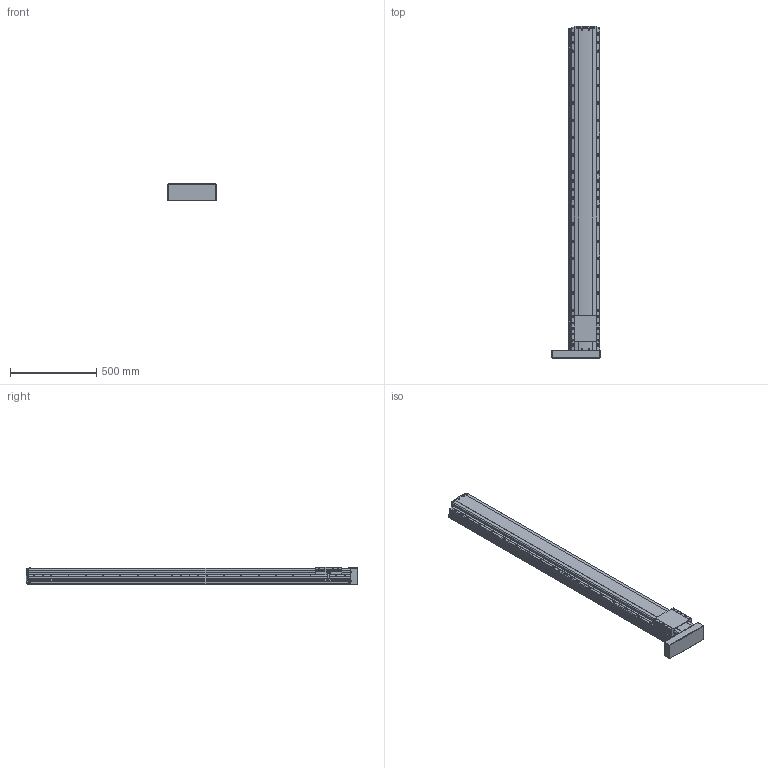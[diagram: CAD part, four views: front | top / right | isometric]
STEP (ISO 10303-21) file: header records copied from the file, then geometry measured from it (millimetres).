
FILE_DESCRIPTION(('STEP AP214'),'1');
FILE_NAME('Z:/Web/3D/PSA165/STP/PSA165-1600 (3D)/PSA165ㅁㅁ-1600PL+3SL.stp','2014-06-24T11:08:19',(' '),(' '),'Spatial InterOp 3D',' ',' ');
FILE_SCHEMA(('automotive_design'));
Length unit declared in the file: millimetre
Products named in the file (41): 스크루 : Round - M4.0 x 12.0; RRCV-PA160; BASE; 스크루 : Round - M4.0 x 10.0; RN15; Screw 20; SLIDE; FRCV; MTPL; 스크루 : Round - M3.0 x 6.0; M3.0 x 6.0; SRL-16x17-360L; SGD-SAN150; EE-SX674; SBK-SX674-352; BHCS M4.0 x 10.0
Bounding box: 281.93 x 1920.8 x 104 mm (x, y, z)
Volume: 26975754.6 mm3; surface area: 1784969 mm2
Topology: 41 solids, 41 shells, 2756 faces, 7413 edges, 4741 vertices
Faces by surface type: plane 1491, cylinder 903, cone 257, sphere 64, bspline 25, torus 16
Entity records: 112153 total; most frequent: CARTESIAN_POINT 19673, DIRECTION 14751, ORIENTED_EDGE 14454, EDGE_CURVE 7227, AXIS2_PLACEMENT_3D 5033, VERTEX_POINT 4741, LINE 4685, VECTOR 4685
